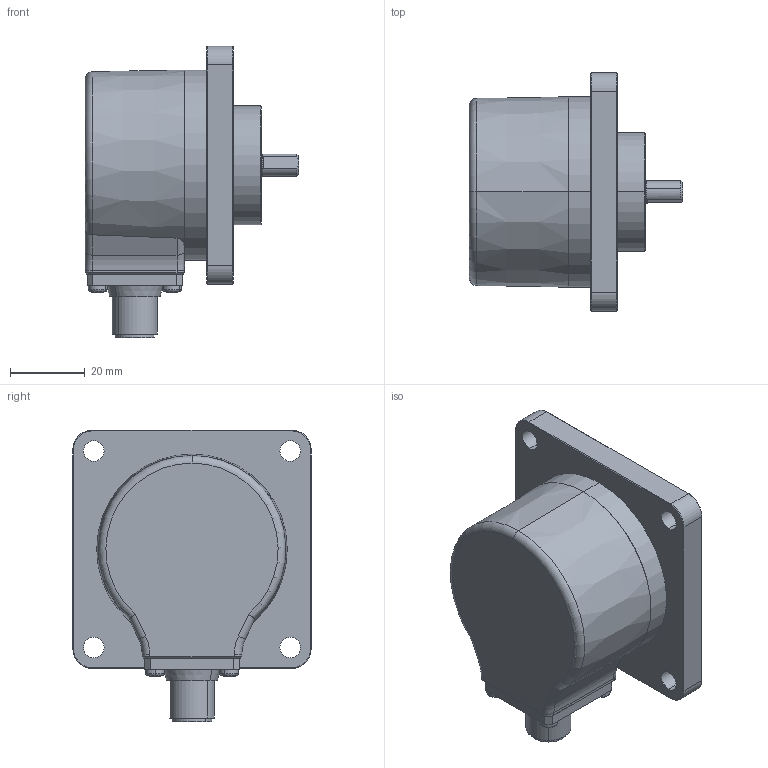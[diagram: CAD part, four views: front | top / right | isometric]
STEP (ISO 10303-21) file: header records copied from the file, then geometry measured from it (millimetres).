
FILE_DESCRIPTION (( 'STEP AP214' ), '1' );
FILE_NAME ('5000.D1X4.XXXX.STEP', '2009-01-14T09:44:51', ( 'admin' ), ( 'Fritz Kübler GmbH' ), 'SwSTEP 2.0', 'SolidWorks 2008', '' );
FILE_SCHEMA (( 'AUTOMOTIVE_DESIGN' ));
Length unit declared in the file: millimetre
Products named in the file (1): 5000.D1X4.XXXX
Bounding box: 57 x 63.5 x 77.75 mm (x, y, z)
Volume: 61160.7 mm3; surface area: 36680.7 mm2
Topology: 9 solids, 10 shells, 520 faces, 1261 edges, 765 vertices
Faces by surface type: plane 162, cylinder 158, cone 83, torus 59, sphere 48, bspline 10
Entity records: 21411 total; most frequent: CARTESIAN_POINT 3633, DIRECTION 2701, ORIENTED_EDGE 2338, EDGE_CURVE 1169, AXIS2_PLACEMENT_3D 1117, VERTEX_POINT 719, EDGE_LOOP 614, CIRCLE 606
